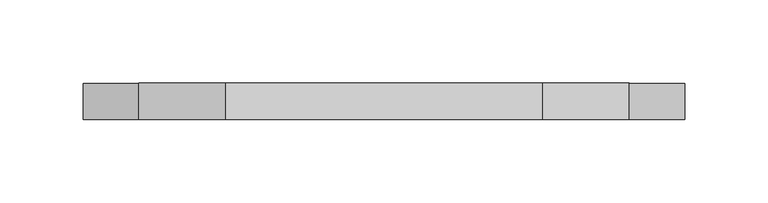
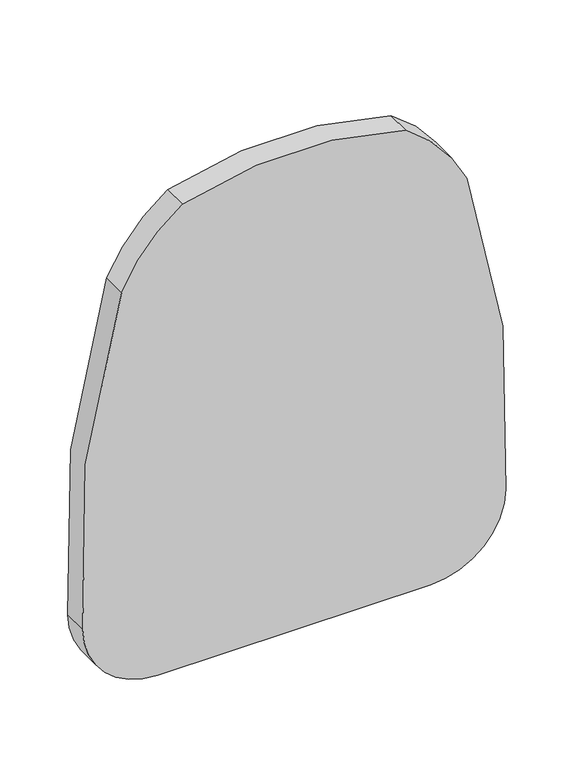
"""IFC4 building model written with IfcOpenShell, lengths in millimetres: flow terminal geometry, Deca_Shared_Assento_P.8 : AP.80_Branco Gelo GE17."""

from ifc_helpers import new_model, si_unit, point, frame, frame_2d, origin, place, context, project, spatial, polyline, circle_curve, trimmed, segment, composite_curve, outline, extrude, source, transform, mapped, element, save


def flow_terminal_6ee619d6(model_context):
    return source(origin(), model_context, "Body", "SweptSolid", [
        extrude(outline(composite_curve([segment(trimmed(circle_curve(frame_2d((304.9564253, -15.0603106)), 144.7962998), [point((425.685935, -95.0))], [point((364.7566149, -146.9311025))], False, "CARTESIAN"), True, "CONTINUOUS"), segment(trimmed(circle_curve(frame_2d((135.4823141, 573.5137359)), 756.0472672), [point((364.7566149, -146.9311025))], [point((73.6396103, -180.0))], False, "CARTESIAN"), True, "CONTINUOUS"), segment(trimmed(circle_curve(frame_2d((73.6396103, -116.3603897)), 63.6396103), [point((73.6396103, -180.0))], [point((10.0, -116.3603897))], False, "CARTESIAN"), True, "CONTINUOUS"), segment(polyline([(10.0, -116.3603897), (10.0, 116.3603897)]), True, "CONTINUOUS"), segment(trimmed(circle_curve(frame_2d((73.6396103, 116.3603897)), 63.6396103), [point((10.0, 116.3603897))], [point((73.6396103, 180.0))], False, "CARTESIAN"), True, "CONTINUOUS"), segment(trimmed(circle_curve(frame_2d((135.4823141, -573.5137359)), 756.0472672), [point((73.6396103, 180.0))], [point((364.7566149, 146.9311025))], False, "CARTESIAN"), True, "CONTINUOUS"), segment(trimmed(circle_curve(frame_2d((304.9564253, 15.0603106)), 144.7962998), [point((364.7566149, 146.9311025))], [point((425.685935, 95.0))], False, "CARTESIAN"), True, "CONTINUOUS"), segment(trimmed(circle_curve(frame_2d((132.3526016, 0.0)), 308.3333333), [point((425.685935, 95.0))], [point((425.685935, -95.0))], False, "CARTESIAN"), True, "CONTINUOUS")], self_intersect=False)), frame((0.0, 7.1484375, 0.0), z_axis=(0.0, 1.0, 0.0), x_axis=(0.0, 0.0, 1.0)), (0.0, 0.0, 1.0), 21.7077029),
    ])


if __name__ == "__main__":
    model = new_model("IFC4")
    model_context = context("Model", 3, world=origin())
    ifc_project = project(units=[si_unit("LENGTHUNIT", "METRE", prefix="MILLI")], contexts=[model_context])
    site = spatial("IfcSite", under=ifc_project)
    building = spatial("IfcBuilding", under=site)
    placement = place(None, origin())
    flow_terminal_shape = flow_terminal_6ee619d6(model_context)
    element("IfcFlowTerminal", 1, ObjectType="Deca_Shared_Assento_P.8 : AP.80_Branco Gelo GE17", at=placement, inside=building, context=model_context, shape_type="MappedRepresentation", body=[
        mapped(flow_terminal_shape, transform((0.0, 0.0, 0.0), x_axis=(1.0, 0.0, 0.0), y_axis=(0.0, 1.0, 0.0), z_axis=(0.0, 0.0, 1.0))),
    ])
    save(model, "model.ifc")
